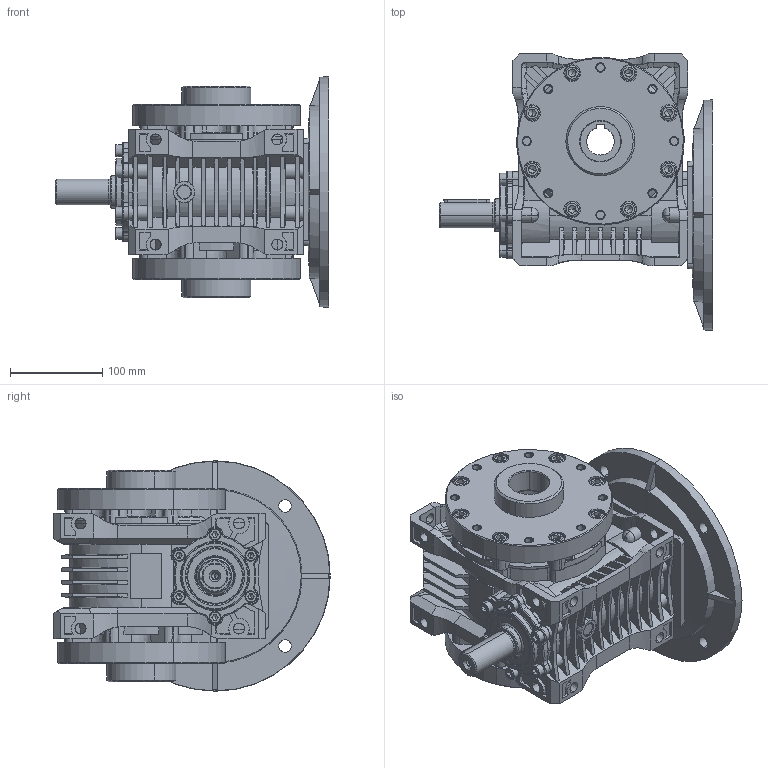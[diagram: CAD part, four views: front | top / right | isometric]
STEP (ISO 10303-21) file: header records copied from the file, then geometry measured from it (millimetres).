
FILE_DESCRIPTION (( 'STEP AP203' ), '1' );
FILE_NAME ('MRP-80_250_28-WBS-SO-2_3D.STEP', '2024-10-29T09:36:56', ( '' ), ( '' ), 'SwSTEP 2.0', 'SolidWorks 2022', '' );
FILE_SCHEMA (( 'CONFIG_CONTROL_DESIGN' ));
Length unit declared in the file: millimetre
Products named in the file (1): MRP-80_250_28-WBS-SO-2_3D
Bounding box: 297 x 300 x 250 mm (x, y, z)
Volume: 5703082.7 mm3; surface area: 660799.7 mm2
Topology: 1 solids, 62 shells, 3124 faces, 7953 edges, 5011 vertices
Faces by surface type: plane 1315, cone 907, cylinder 590, torus 232, bspline 80
Entity records: 99022 total; most frequent: CARTESIAN_POINT 24857, ORIENTED_EDGE 15656, DIRECTION 15437, EDGE_CURVE 7828, AXIS2_PLACEMENT_3D 5833, VERTEX_POINT 5011, VECTOR 3771, LINE 3771
